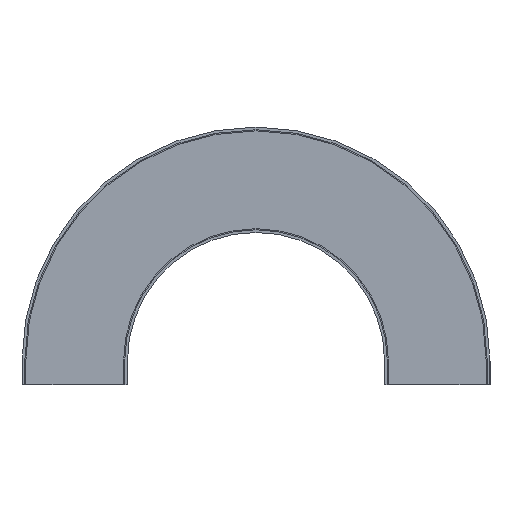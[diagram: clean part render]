
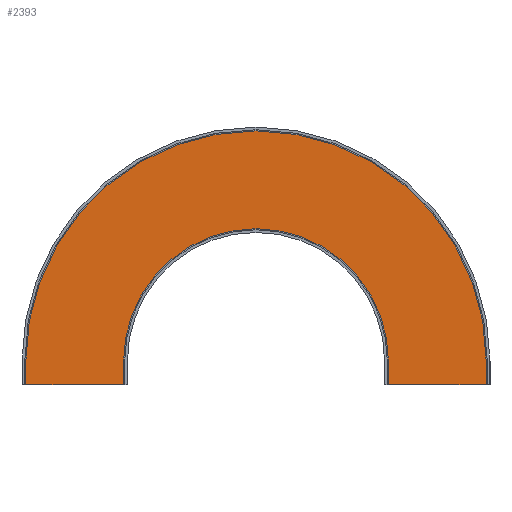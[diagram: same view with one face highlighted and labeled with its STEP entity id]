
A CAD part, front view. The second image highlights one B-rep face of the part: STEP entity #2393.
In plain terms, the highlighted planar face has unit normal (0, -1, 0).
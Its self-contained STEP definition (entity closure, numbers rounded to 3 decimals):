
#43 = LINE ( 'NONE', #158, #525 ) ;
#82 = VERTEX_POINT ( 'NONE', #1823 ) ;
#122 = VERTEX_POINT ( 'NONE', #2044 ) ;
#128 = ORIENTED_EDGE ( 'NONE', *, *, #517, .T. ) ;
#153 = CIRCLE ( 'NONE', #1350, 292.05 ) ;
#158 = CARTESIAN_POINT ( 'NONE',  ( 0., -68.25, -52.5 ) ) ;
#163 = LINE ( 'NONE', #1762, #1736 ) ;
#245 = EDGE_CURVE ( 'NONE', #122, #796, #384, .T. ) ;
#352 = ORIENTED_EDGE ( 'NONE', *, *, #1682, .F. ) ;
#356 = VECTOR ( 'NONE', #502, 1000. ) ;
#379 = EDGE_CURVE ( 'NONE', #2448, #2251, #776, .T. ) ;
#384 = LINE ( 'NONE', #2318, #1781 ) ;
#394 = ORIENTED_EDGE ( 'NONE', *, *, #2141, .F. ) ;
#408 = DIRECTION ( 'NONE',  ( -1., 0., 0. ) ) ;
#469 = DIRECTION ( 'NONE',  ( 0., 1., 0. ) ) ;
#472 = ORIENTED_EDGE ( 'NONE', *, *, #1344, .F. ) ;
#481 = VERTEX_POINT ( 'NONE', #1857 ) ;
#502 = DIRECTION ( 'NONE',  ( 0., 0., 1. ) ) ;
#517 = EDGE_CURVE ( 'NONE', #122, #851, #1999, .T. ) ;
#525 = VECTOR ( 'NONE', #1655, 1000. ) ;
#631 = FACE_OUTER_BOUND ( 'NONE', #1255, .T. ) ;
#776 = LINE ( 'NONE', #1646, #356 ) ;
#796 = VERTEX_POINT ( 'NONE', #2278 ) ;
#847 = DIRECTION ( 'NONE',  ( 0., 0., 1. ) ) ;
#851 = VERTEX_POINT ( 'NONE', #1117 ) ;
#876 = EDGE_CURVE ( 'NONE', #2251, #82, #153, .T. ) ;
#925 = DIRECTION ( 'NONE',  ( 0., 1., 0. ) ) ;
#945 = CARTESIAN_POINT ( 'NONE',  ( -292.05, -68.25, 0. ) ) ;
#968 = CARTESIAN_POINT ( 'NONE',  ( 0., -68.25, 0. ) ) ;
#1090 = AXIS2_PLACEMENT_3D ( 'NONE', #945, #925, #2297 ) ;
#1092 = EDGE_CURVE ( 'NONE', #796, #82, #1284, .T. ) ;
#1117 = CARTESIAN_POINT ( 'NONE',  ( 507.95, -68.25, 0. ) ) ;
#1155 = DIRECTION ( 'NONE',  ( 0., 1., 0. ) ) ;
#1186 = ORIENTED_EDGE ( 'NONE', *, *, #379, .T. ) ;
#1202 = CIRCLE ( 'NONE', #2046, 507.95 ) ;
#1237 = CARTESIAN_POINT ( 'NONE',  ( 507.95, -68.25, -52.5 ) ) ;
#1255 = EDGE_LOOP ( 'NONE', ( #1846, #2126, #2007, #128, #394, #352, #472, #1186 ) ) ;
#1284 = LINE ( 'NONE', #1562, #1574 ) ;
#1332 = CARTESIAN_POINT ( 'NONE',  ( -292.05, -68.25, -52.5 ) ) ;
#1344 = EDGE_CURVE ( 'NONE', #2448, #481, #43, .T. ) ;
#1350 = AXIS2_PLACEMENT_3D ( 'NONE', #968, #1155, #408 ) ;
#1481 = CARTESIAN_POINT ( 'NONE',  ( -292.05, -68.25, 0. ) ) ;
#1562 = CARTESIAN_POINT ( 'NONE',  ( 292.05, -68.25, -52.5 ) ) ;
#1574 = VECTOR ( 'NONE', #1630, 1000. ) ;
#1606 = DIRECTION ( 'NONE',  ( -1., 0., 0. ) ) ;
#1609 = CARTESIAN_POINT ( 'NONE',  ( 0., -68.25, 0. ) ) ;
#1630 = DIRECTION ( 'NONE',  ( 0., 0., 1. ) ) ;
#1646 = CARTESIAN_POINT ( 'NONE',  ( -292.05, -68.25, -52.5 ) ) ;
#1655 = DIRECTION ( 'NONE',  ( -1., 0., 0. ) ) ;
#1682 = EDGE_CURVE ( 'NONE', #481, #2276, #163, .T. ) ;
#1736 = VECTOR ( 'NONE', #1777, 1000. ) ;
#1762 = CARTESIAN_POINT ( 'NONE',  ( -507.95, -68.25, -52.5 ) ) ;
#1777 = DIRECTION ( 'NONE',  ( 0., 0., 1. ) ) ;
#1781 = VECTOR ( 'NONE', #1606, 1000. ) ;
#1823 = CARTESIAN_POINT ( 'NONE',  ( 292.05, -68.25, 0. ) ) ;
#1846 = ORIENTED_EDGE ( 'NONE', *, *, #876, .T. ) ;
#1857 = CARTESIAN_POINT ( 'NONE',  ( -507.95, -68.25, -52.5 ) ) ;
#1923 = PLANE ( 'NONE',  #1090 ) ;
#1999 = LINE ( 'NONE', #1237, #2034 ) ;
#2007 = ORIENTED_EDGE ( 'NONE', *, *, #245, .F. ) ;
#2034 = VECTOR ( 'NONE', #847, 1000. ) ;
#2044 = CARTESIAN_POINT ( 'NONE',  ( 507.95, -68.25, -52.5 ) ) ;
#2046 = AXIS2_PLACEMENT_3D ( 'NONE', #1609, #469, #2195 ) ;
#2126 = ORIENTED_EDGE ( 'NONE', *, *, #1092, .F. ) ;
#2141 = EDGE_CURVE ( 'NONE', #2276, #851, #1202, .T. ) ;
#2195 = DIRECTION ( 'NONE',  ( -1., 0., 0. ) ) ;
#2251 = VERTEX_POINT ( 'NONE', #1481 ) ;
#2276 = VERTEX_POINT ( 'NONE', #2457 ) ;
#2278 = CARTESIAN_POINT ( 'NONE',  ( 292.05, -68.25, -52.5 ) ) ;
#2297 = DIRECTION ( 'NONE',  ( -1., 0., 0. ) ) ;
#2318 = CARTESIAN_POINT ( 'NONE',  ( 0., -68.25, -52.5 ) ) ;
#2393 = ADVANCED_FACE ( 'NONE', ( #631 ), #1923, .F. ) ;
#2448 = VERTEX_POINT ( 'NONE', #1332 ) ;
#2457 = CARTESIAN_POINT ( 'NONE',  ( -507.95, -68.25, 0. ) ) ;
